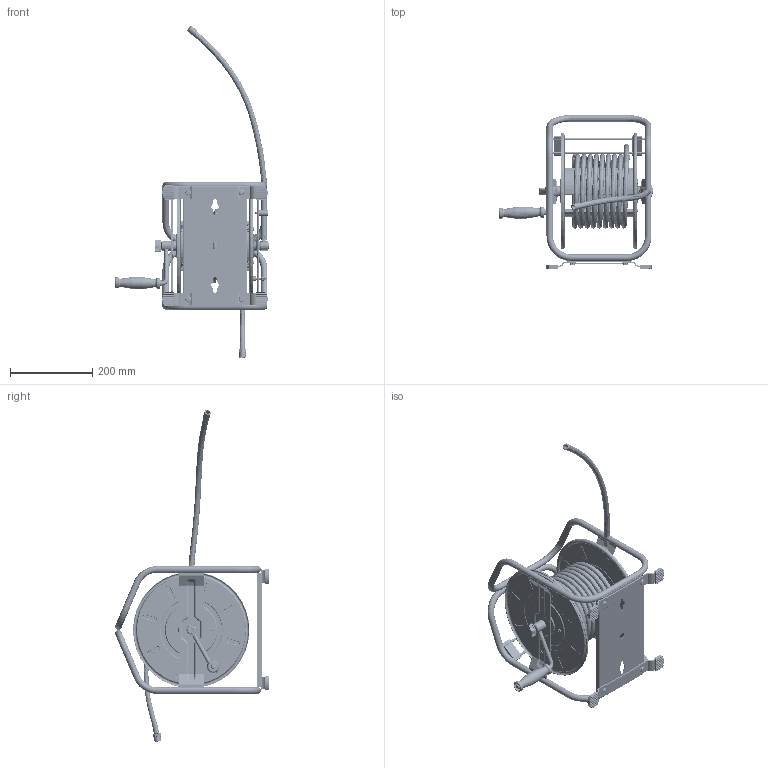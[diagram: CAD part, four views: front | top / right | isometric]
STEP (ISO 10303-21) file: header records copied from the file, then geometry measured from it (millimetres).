
FILE_DESCRIPTION (( 'STEP AP214' ), '1' );
FILE_NAME ('AM.STEP', '2021-12-13T11:02:46', ( '' ), ( '' ), 'SwSTEP 2.0', 'SolidWorks 2018', '' );
FILE_SCHEMA (( 'AUTOMOTIVE_DESIGN' ));
Length unit declared in the file: millimetre
Products named in the file (1): AM
Bounding box: 376.04 x 375.02 x 809.36 mm (x, y, z)
Volume: 1237374.2 mm3; surface area: 1395799.4 mm2
Topology: 61 solids, 61 shells, 5682 faces, 13458 edges, 7987 vertices
Faces by surface type: cylinder 2287, plane 1715, cone 773, torus 491, bspline 342, sphere 74
Full cylindrical faces by diameter (mm): 1.067 x2, 3 x2, 3.5 x8, 4 x16, 4.2 x12, 5 x186, 5.5 x6, 5.7 x1, 6 x42, 6.2 x14, 6.4 x8, 6.5 x4, 7 x2, 8 x9, 8.1 x2, 8.2 x4, 8.5 x1, 9 x6, 10 x11, 10.5 x1, 11 x2, 11.2 x2, 11.7 x1, 12 x1, 13 x14, 13.6 x1, 14 x2, 14.3 x5, 14.5 x1, 14.6 x1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
Entity records: 233665 total; most frequent: CARTESIAN_POINT 52380, ORIENTED_EDGE 24268, DIRECTION 23591, EDGE_CURVE 12134, AXIS2_PLACEMENT_3D 8975, VERTEX_POINT 7828, EDGE_LOOP 7108, FACE_OUTER_BOUND 6215
